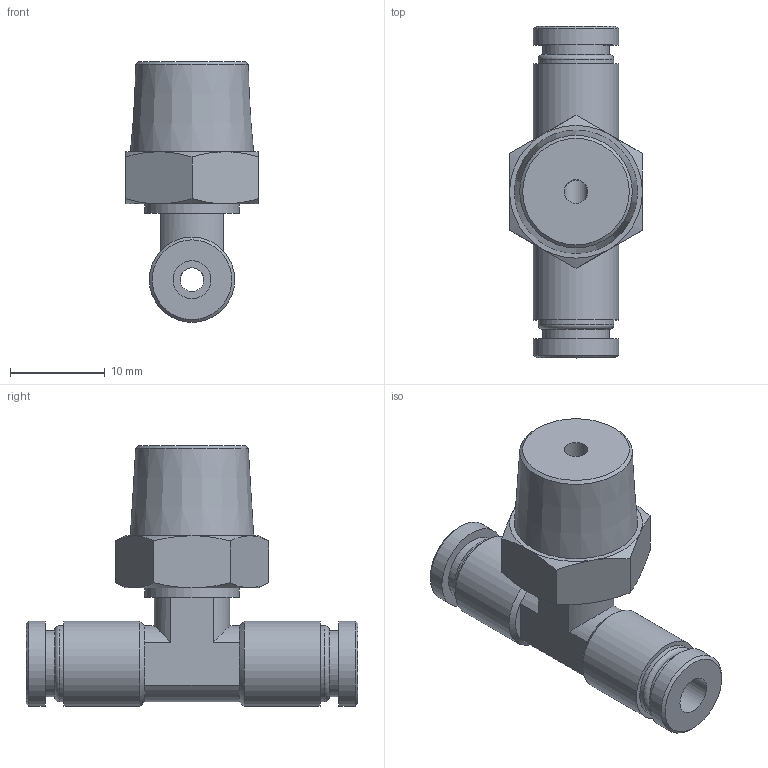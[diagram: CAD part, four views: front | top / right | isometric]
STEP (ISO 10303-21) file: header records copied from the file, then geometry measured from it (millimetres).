
FILE_DESCRIPTION(/* description */ (''),/* implementation_level */ '2;1');
FILE_NAME(/* name */ 'LXH31 0004 B2.stp',/* time_stamp */ '2026-04-22T20:57:04+02:00',/* author */ ('freju'),/* organization */ (''),/* preprocessor_version */ 'ST-DEVELOPER v20.1',/* originating_system */ 'Autodesk Inventor 2026',/* authorisation */ '');
FILE_SCHEMA (('AUTOMOTIVE_DESIGN { 1 0 10303 214 3 1 1 }'));
Length unit declared in the file: millimetre
Products named in the file (1): LXH31 0004 B2
Bounding box: 14 x 35 x 27.5 mm (x, y, z)
Volume: 3783.6 mm3; surface area: 2684.3 mm2
Topology: 1 solids, 1 shells, 62 faces, 133 edges, 81 vertices
Faces by surface type: plane 24, cylinder 18, cone 18, torus 2
Full cylindrical faces by diameter (mm): 2.5 x2, 4 x2, 7 x2, 8 x2, 9 x4, 10 x1
Entity records: 1707 total; most frequent: CARTESIAN_POINT 325, DIRECTION 302, ORIENTED_EDGE 266, EDGE_CURVE 133, AXIS2_PLACEMENT_3D 130, VERTEX_POINT 81, EDGE_LOOP 74, CIRCLE 63
